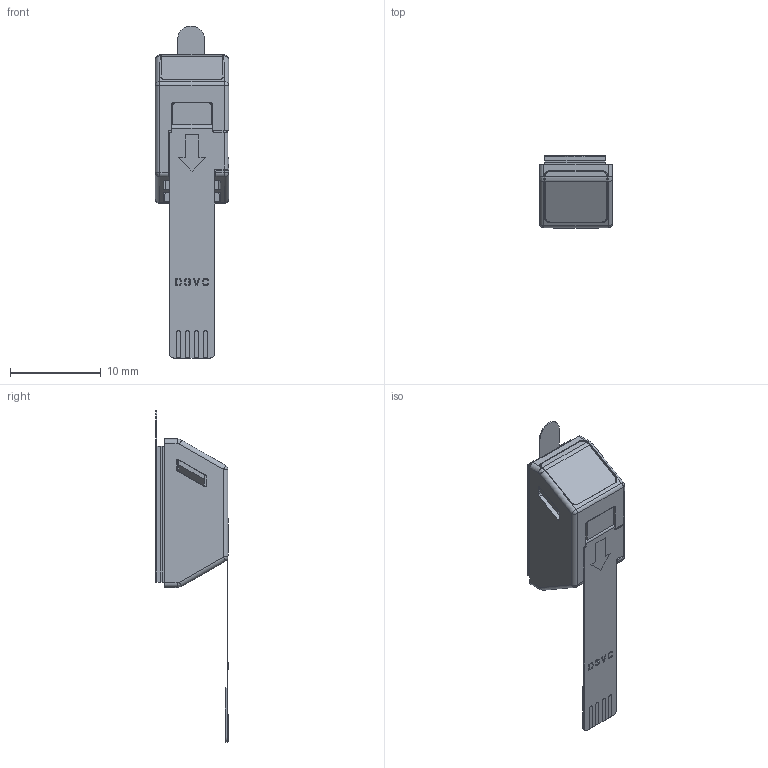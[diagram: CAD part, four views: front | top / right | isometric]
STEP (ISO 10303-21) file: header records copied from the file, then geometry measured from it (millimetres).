
FILE_DESCRIPTION((''),'2;1');
FILE_NAME('SOUNDSKIRT_MIC_1610_ASM','2026-09-23T16:21:32',('ts'),(''),'CREO PARAMETRIC BY PTC INC, 2026092','CREO PARAMETRIC BY PTC INC, 2026092','');
FILE_SCHEMA(('AUTOMOTIVE_DESIGN { 1 0 10303 214 1 1 1 1 }'));
Products named in the file (19): SOUNDSKIRT_MIC_GASKET_711_1; SOUNDSKIRT_MIC_SILICON_202_1; SOUNDSKIRT_MIC_FPCA_FPC_108_1_1; SOUNDSKIRT_MIC_FPCA_FPC_108_2_1; SOUNDSKIRT_MIC_FPCA_FPC_108_ASM_ASM; SOUNDSKIRT_MIC_FPCA_MEMS_1_9_1; SOUNDSKIRT_MIC_FPCA_MEMS_2_20_1; SOUNDSKIRT_MIC_FPCA_SUS301_1_1_; SOUNDSKIRT_MIC_FPCA_SUS301_2_1_; SOUNDSKIRT_MIC_FPCA_SUS301_3_10; SOUNDSKIRT_MIC_FPCA_0402_1_1; SOUNDSKIRT_MIC_FPCA_BJ_1_1_1; SOUNDSKIRT_MIC_FPCA_ASM_60_ASM__ASM; DIANPIAN_1; SOUNDSKIRT_MIC_BJ_LXZ_5_1_1; SOUNDSKIRT_MIC_BJ_BJ_1_1_1; SOUNDSKIRT_MIC_BJ_TYW_1_1_1; SOUNDSKIRT_MIC_BJ_ASM_3_ASM2026_ASM; SOUNDSKIRT_MIC_1610_ASM
Assembly tree (19 placements, depth 4):
  SOUNDSKIRT_MIC_1610_ASM
    SOUNDSKIRT_MIC_GASKET_711_1
    SOUNDSKIRT_MIC_SILICON_202_1
    SOUNDSKIRT_MIC_FPCA_ASM_60_ASM__ASM
      SOUNDSKIRT_MIC_FPCA_FPC_108_ASM_ASM
        SOUNDSKIRT_MIC_FPCA_FPC_108_1_1
        SOUNDSKIRT_MIC_FPCA_FPC_108_2_1
      SOUNDSKIRT_MIC_FPCA_MEMS_1_9_1
      SOUNDSKIRT_MIC_FPCA_MEMS_2_20_1
      SOUNDSKIRT_MIC_FPCA_SUS301_1_1_
      SOUNDSKIRT_MIC_FPCA_SUS301_2_1_
      SOUNDSKIRT_MIC_FPCA_SUS301_3_10
      SOUNDSKIRT_MIC_FPCA_0402_1_1
      SOUNDSKIRT_MIC_FPCA_BJ_1_1_1
    DIANPIAN_1
    SOUNDSKIRT_MIC_BJ_ASM_3_ASM2026_ASM
      SOUNDSKIRT_MIC_BJ_LXZ_5_1_1
      SOUNDSKIRT_MIC_BJ_BJ_1_1_1  x2
      SOUNDSKIRT_MIC_BJ_TYW_1_1_1
Bounding box: 8.1 x 7.96 x 36.66 mm (x, y, z)
Volume: 760.6 mm3; surface area: 2804.1 mm2
Topology: 16 solids, 16 shells, 1812 faces, 5009 edges, 3261 vertices
Faces by surface type: cylinder 1116, plane 588, bspline 72, sphere 18, torus 14, cone 4
Entity records: 80881 total; most frequent: CARTESIAN_POINT 13245, DIRECTION 10566, ORIENTED_EDGE 9916, EDGE_CURVE 4958, PRESENTATION_STYLE_ASSIGNMENT 4803, STYLED_ITEM 4586, CURVE_STYLE 4456, AXIS2_PLACEMENT_3D 3985
